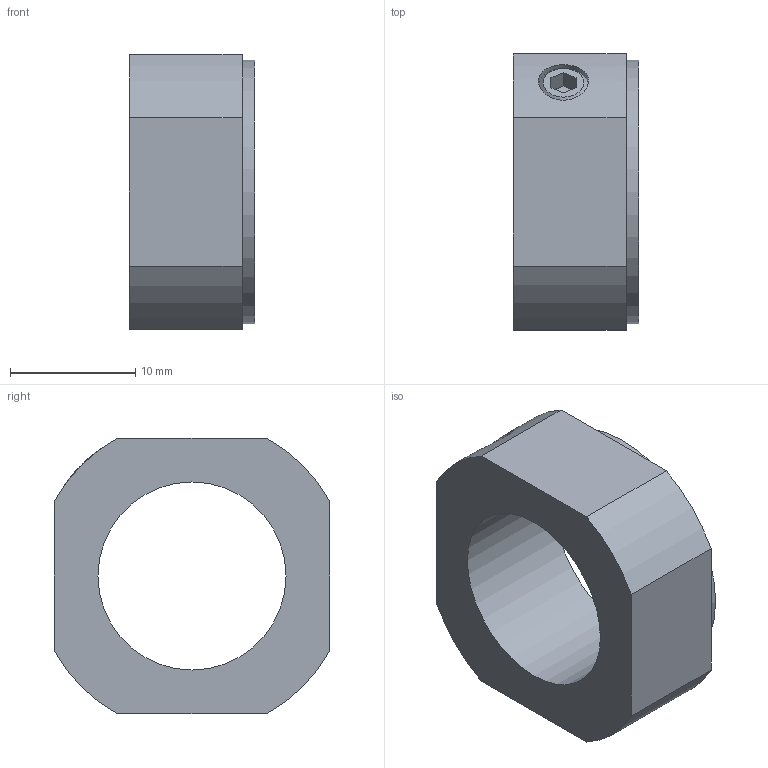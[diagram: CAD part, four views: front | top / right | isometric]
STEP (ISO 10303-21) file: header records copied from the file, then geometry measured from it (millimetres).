
FILE_DESCRIPTION((''),'2;1');
FILE_NAME('D:\製品 (図面)\カタログ用3D\ネジ関連\STEP形式\LNM\LNM15×1.stp','2010-06-02T14:36:15',('Tsuchiya'),(''),'Autodesk Inventor 10','Autodesk Inventor 10','');
FILE_SCHEMA(('AUTOMOTIVE_DESIGN { 1 0 10303 214 1 1 1 1 }'));
Length unit declared in the file: millimetre
Products named in the file (1): LNM15×1
Bounding box: 10 x 22 x 22 mm (x, y, z)
Volume: 2556.7 mm3; surface area: 1776.5 mm2
Topology: 1 solids, 1 shells, 23 faces, 55 edges, 37 vertices
Faces by surface type: plane 15, cylinder 6, cone 1, bspline 1
Full cylindrical faces by diameter (mm): 4 x1, 21 x1
Entity records: 738 total; most frequent: CARTESIAN_POINT 187, DIRECTION 108, ORIENTED_EDGE 100, EDGE_CURVE 50, AXIS2_PLACEMENT_3D 37, VERTEX_POINT 36, VECTOR 34, LINE 34
